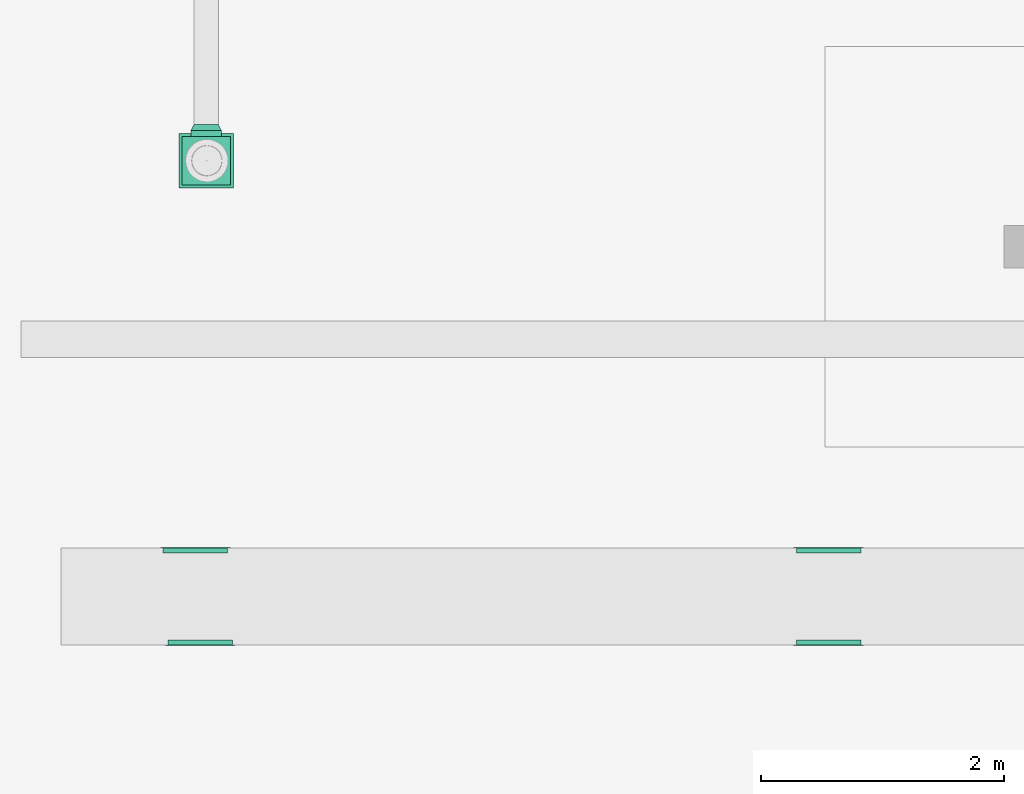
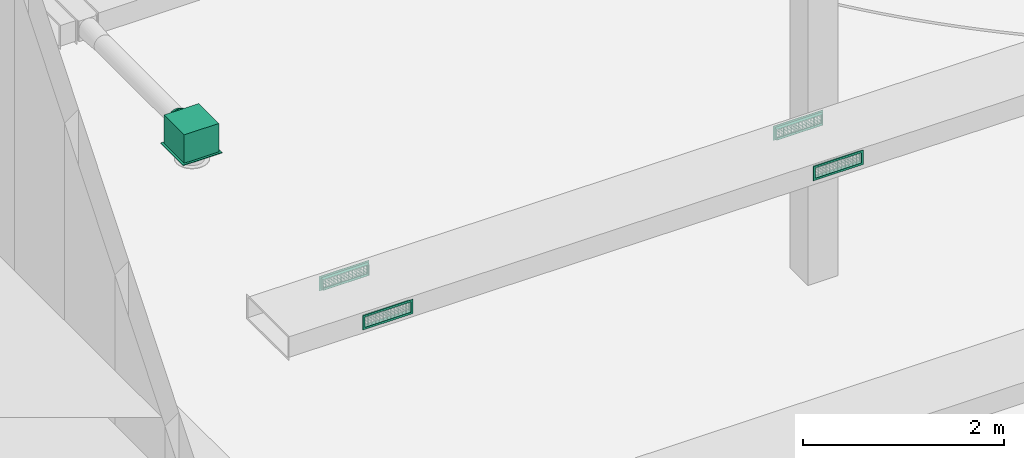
# One storey, part 266 of 302: 5 flow terminals, 1 flow fitting.
"""IFC2X3 building model written with IfcOpenShell, lengths in metres."""

from ifc_helpers import new_model, entity, si_unit, converted_unit, derived_unit, direction, frame, frame_2d, origin, origin_2d_with_axis, place, context, subcontext, project, spatial, polyline, circle_curve, parameter, trimmed, segment, composite_curve, rectangle, circle, outline, extrude, faceted_brep, source, transform, mapped, material, material_list, type_object, type_shapes, element, save


model = new_model("IFC2X3")

# Units and contexts
model_context = context("Model", 3, precision=1e-05, world=origin(), true_north=direction((6.12303176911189e-17, 1.0)))
body_context = subcontext(model_context, "Body", "Model", "MODEL_VIEW")
ifc_project = project(units=[si_unit("LENGTHUNIT", "METRE"), si_unit("AREAUNIT", "SQUARE_METRE"), si_unit("VOLUMEUNIT", "CUBIC_METRE"), converted_unit("PLANEANGLEUNIT", "DEGREE", entity("IfcRatioMeasure", 0.0174532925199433), si_unit("PLANEANGLEUNIT", "RADIAN"), dimensions=[0, 0, 0, 0, 0, 0, 0]), si_unit("MASSUNIT", "GRAM", prefix="KILO"), derived_unit("MASSDENSITYUNIT", [(si_unit("MASSUNIT", "GRAM", prefix="KILO"), 1), (si_unit("LENGTHUNIT", "METRE"), -3)]), derived_unit("MOMENTOFINERTIAUNIT", [(si_unit("LENGTHUNIT", "METRE"), 4)]), si_unit("TIMEUNIT", "SECOND"), si_unit("FREQUENCYUNIT", "HERTZ"), si_unit("THERMODYNAMICTEMPERATUREUNIT", "DEGREE_CELSIUS"), derived_unit("THERMALTRANSMITTANCEUNIT", [(si_unit("MASSUNIT", "GRAM", prefix="KILO"), 1), (si_unit("THERMODYNAMICTEMPERATUREUNIT", "KELVIN"), -1), (si_unit("TIMEUNIT", "SECOND"), -3)]), derived_unit("VOLUMETRICFLOWRATEUNIT", [(si_unit("LENGTHUNIT", "METRE"), 3), (si_unit("TIMEUNIT", "SECOND"), -1)]), si_unit("ELECTRICCURRENTUNIT", "AMPERE"), si_unit("ELECTRICVOLTAGEUNIT", "VOLT"), si_unit("POWERUNIT", "WATT"), si_unit("FORCEUNIT", "NEWTON", prefix="KILO"), si_unit("ILLUMINANCEUNIT", "LUX"), si_unit("LUMINOUSFLUXUNIT", "LUMEN"), si_unit("LUMINOUSINTENSITYUNIT", "CANDELA"), derived_unit("USERDEFINED", [(si_unit("MASSUNIT", "GRAM", prefix="KILO"), -1), (si_unit("LENGTHUNIT", "METRE"), -2), (si_unit("TIMEUNIT", "SECOND"), 3), (si_unit("LUMINOUSFLUXUNIT", "LUMEN"), 1)]), derived_unit("LINEARVELOCITYUNIT", [(si_unit("LENGTHUNIT", "METRE"), 1), (si_unit("TIMEUNIT", "SECOND"), -1)]), si_unit("PRESSUREUNIT", "PASCAL"), derived_unit("USERDEFINED", [(si_unit("LENGTHUNIT", "METRE"), -2), (si_unit("MASSUNIT", "GRAM", prefix="KILO"), 1), (si_unit("TIMEUNIT", "SECOND"), -2)]), derived_unit("LINEARFORCEUNIT", [(si_unit("MASSUNIT", "GRAM", prefix="KILO"), 1), (si_unit("LENGTHUNIT", "METRE"), 1), (si_unit("TIMEUNIT", "SECOND"), -2), (si_unit("LENGTHUNIT", "METRE"), -1)]), derived_unit("PLANARFORCEUNIT", [(si_unit("MASSUNIT", "GRAM", prefix="KILO"), 1), (si_unit("LENGTHUNIT", "METRE"), 1), (si_unit("TIMEUNIT", "SECOND"), -2), (si_unit("LENGTHUNIT", "METRE"), -2)])], contexts=[model_context])

# Site, building, storey
site_placement = place(None, origin())
site = spatial("IfcSite", under=ifc_project, at=site_placement, Name="Default", CompositionType="ELEMENT")
building_placement = place(site_placement, origin())
building = spatial("IfcBuilding", under=site, at=building_placement, CompositionType="ELEMENT")
storey_placement = place(building_placement, frame((0.0, 0.0, -1.3)))
storey = spatial("IfcBuildingStorey", under=building, at=storey_placement, Name="00_EG", CompositionType="ELEMENT", Elevation=-1.3)

# Flow fitting
ifc_material = material(Name="<Unnamed>")
duct_fitting_type = type_object("IfcDuctFittingType", Name="STR_RND_Transition:STR_Transition_RND_GS_EA", PredefinedType="NOTDEFINED", material=ifc_material)
shared_shape_1 = source(origin(), body_context, "Body", "Brep", [
    faceted_brep([(0.0500000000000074, -0.073473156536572, -0.1011271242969), (0.0500000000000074, -0.0386271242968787, -0.118882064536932), (0.0500000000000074, 0.0, -0.12500000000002), (0.0500000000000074, 0.0386271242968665, -0.11888206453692), (0.0500000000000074, 0.073473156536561, -0.101127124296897), (0.0500000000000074, 0.101127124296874, -0.0734731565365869), (0.0500000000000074, 0.1188820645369, -0.038627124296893), (0.0500000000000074, 0.124999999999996, 0.0), (0.0500000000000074, 0.118882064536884, 0.0386271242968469), (0.0500000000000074, 0.101127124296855, 0.073473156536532), (0.0500000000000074, 0.0734731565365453, 0.101127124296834), (0.0500000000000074, 0.0386271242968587, 0.118882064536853), (0.0500000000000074, 0.0, 0.12499999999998), (0.0500000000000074, -0.0386271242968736, 0.118882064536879), (0.0500000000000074, -0.0734731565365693, 0.101127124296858), (0.0500000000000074, -0.101127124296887, 0.0734731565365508), (0.0500000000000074, -0.118882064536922, 0.0386271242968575), (0.0500000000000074, -0.125000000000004, 0.0), (0.0500000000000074, -0.118882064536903, -0.0386271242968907), (0.0500000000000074, -0.101127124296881, -0.0734731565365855), (0.0, 0.0309016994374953, -0.0951056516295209), (0.0, 0.0, -0.100000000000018), (0.0, -0.0309016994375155, -0.0951056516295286), (0.0, -0.0587785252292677, -0.0809016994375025), (0.0, -0.0809016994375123, -0.0587785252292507), (0.0, -0.0951056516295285, -0.0309016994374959), (0.0, -0.100000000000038, 0.0), (0.0, -0.0951056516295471, 0.0309016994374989), (0.0, -0.0809016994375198, 0.0587785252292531), (0.0, -0.058778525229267, 0.0809016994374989), (0.0, -0.0309016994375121, 0.0951056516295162), (0.0, 0.0, 0.0999999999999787), (0.0, 0.0309016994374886, 0.0951056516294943), (0.0, 0.0587785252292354, 0.0809016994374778), (0.0, 0.0809016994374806, 0.0587785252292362), (0.0, 0.0951056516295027, 0.0309016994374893), (0.0, 0.0999999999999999, 0.0), (0.0, 0.0951056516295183, -0.0309016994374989), (0.0, 0.0809016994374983, -0.0587785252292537), (0.0, 0.0587785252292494, -0.0809016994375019)], [[[0, 1, 2, 3, 4, 5, 6, 7, 8, 9, 10, 11, 12, 13, 14, 15, 16, 17, 18, 19]], [[20, 21, 22, 23, 24, 25, 26, 27, 28, 29, 30, 31, 32, 33, 34, 35, 36, 37, 38, 39]], [[35, 34, 9, 8]], [[36, 35, 8, 7]], [[34, 33, 10, 9]], [[10, 33, 32, 11]], [[11, 32, 31, 12]], [[30, 29, 14, 13]], [[31, 30, 13, 12]], [[29, 28, 15, 14]], [[15, 28, 27, 16]], [[16, 27, 26, 17]], [[25, 24, 19, 18]], [[26, 25, 18, 17]], [[24, 23, 0, 19]], [[0, 23, 22, 1]], [[1, 22, 21, 2]], [[20, 39, 4, 3]], [[21, 20, 3, 2]], [[39, 38, 5, 4]], [[5, 38, 37, 6]], [[6, 37, 36, 7]]]),
])
type_shapes(duct_fitting_type, [shared_shape_1])
flow_fitting_placement = place(storey_placement, frame((-263.476224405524, 36.4181484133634, 4.90999999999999), z_axis=(0.0, 0.0, 1.0), x_axis=(0.0, -1.0, 0.0)))
element("IfcFlowFitting", 1, at=flow_fitting_placement, inside=storey, type_object=duct_fitting_type, material=ifc_material, Name="STR_RND_Transition:STR_Transition_RND_GS_EA", ObjectType="STR_RND_Transition:STR_Transition_RND_GS_EA", context=body_context, shape_type="MappedRepresentation", body=[
    mapped(shared_shape_1, transform((0.0, 0.0, 0.0), scale=1.0)),
])

# Flow terminals
ifc_material_list_1 = material_list([ifc_material, ifc_material, ifc_material])
ifc_material_list_2 = material_list([ifc_material, ifc_material, ifc_material])
air_terminal_type_1 = type_object("IfcAirTerminalType", Name="Drallauslass Zuluft seitlich:600 quadratisch", PredefinedType="NOTDEFINED", material=ifc_material_list_2)
shared_shape_2 = source(origin(), body_context, "Body", "SweptSolid", [
    extrude(rectangle(XDim=0.450000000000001, YDim=0.449999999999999, at=origin_2d_with_axis()), frame((0.0, 0.0, 2.692), z_axis=(0.0, 0.0, 1.0), x_axis=(0.0, 1.0, 0.0)), (0.0, 0.0, 1.0), 0.00800000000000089),
    extrude(circle(Radius=0.125, at=frame_2d((1.22275294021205e-18, -5.41433564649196e-16), x_axis=(1.0, 0.0))), frame((-0.25, 0.0, 2.89500000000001), z_axis=(1.0, 0.0, 0.0), x_axis=(0.0, -1.0, 0.0)), (0.0, 0.0, 1.0), 0.0499999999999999),
    extrude(rectangle(XDim=0.4, YDim=0.399999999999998, at=origin_2d_with_axis()), frame((0.0, 0.0, 2.7), z_axis=(0.0, 0.0, 1.0), x_axis=(0.0, 1.0, 0.0)), (0.0, 0.0, 1.0), 0.345000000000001),
])
type_shapes(air_terminal_type_1, [shared_shape_2])
flow_terminal_placement = place(storey_placement, frame((-263.476224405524, 36.1181484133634, 2.01499999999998), z_axis=(0.0, 0.0, 1.0), x_axis=(0.0, -1.0, 0.0)))
element("IfcFlowTerminal", 2, at=flow_terminal_placement, inside=storey, type_object=air_terminal_type_1, material=ifc_material_list_1, Name="Drallauslass Zuluft seitlich:600 quadratisch", ObjectType="Drallauslass Zuluft seitlich:600 quadratisch", context=body_context, shape_type="MappedRepresentation", body=[
    mapped(shared_shape_2, transform((0.0, 0.0, 0.0), scale=1.0)),
])
ifc_material_list_3 = material_list([ifc_material, ifc_material, ifc_material, ifc_material, ifc_material, ifc_material, ifc_material, ifc_material, ifc_material, ifc_material, ifc_material, ifc_material, ifc_material, ifc_material, ifc_material, ifc_material, ifc_material, ifc_material, ifc_material])
air_terminal_type_2 = type_object("IfcAirTerminalType", Name="Kanallüftungsgitter Abluft:525 x 125", PredefinedType="NOTDEFINED", material=ifc_material_list_3)
shared_shape_3 = source(origin(), body_context, "Body", "SweptSolid", [
    extrude(outline(composite_curve([segment(polyline([(-0.00289554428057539, -0.00148147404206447), (0.00423714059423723, -0.00148147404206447)]), True, "CONTINUOUS"), segment(polyline([(0.00423714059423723, -0.00148147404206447), (-0.00134159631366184, 0.00296294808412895)]), True, "CONTINUOUS"), segment(trimmed(circle_curve(frame_2d((-0.00255940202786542, 0.000894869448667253), x_axis=(0.330047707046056, 0.943964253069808)), 0.0024), [parameter(348.779604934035)], [parameter(191.220395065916)], True, "PARAMETER"), True, "CONTINUOUS")], self_intersect=False)), frame((-0.0293780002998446, -0.2625, 0.0446428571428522), z_axis=(0.0, 1.0, 0.0), x_axis=(-0.943964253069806, 0.0, 0.330047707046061)), (0.0, 0.0, 1.0), 0.525),
    extrude(outline(composite_curve([segment(polyline([(-0.00289554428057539, -0.00148147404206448), (0.00423714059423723, -0.00148147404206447)]), True, "CONTINUOUS"), segment(polyline([(0.00423714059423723, -0.00148147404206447), (-0.00134159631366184, 0.00296294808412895)]), True, "CONTINUOUS"), segment(trimmed(circle_curve(frame_2d((-0.00255940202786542, 0.000894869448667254), x_axis=(0.330047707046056, 0.943964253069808)), 0.0024), [parameter(348.779604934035)], [parameter(191.220395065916)], True, "PARAMETER"), True, "CONTINUOUS")], self_intersect=False)), frame((-0.0293780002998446, -0.2625, 0.0267857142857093), z_axis=(0.0, 1.0, 0.0), x_axis=(-0.943964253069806, 0.0, 0.330047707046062)), (0.0, 0.0, 1.0), 0.525),
    extrude(outline(composite_curve([segment(polyline([(-0.00289554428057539, -0.00148147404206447), (0.00423714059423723, -0.00148147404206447)]), True, "CONTINUOUS"), segment(polyline([(0.00423714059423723, -0.00148147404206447), (-0.00134159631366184, 0.00296294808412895)]), True, "CONTINUOUS"), segment(trimmed(circle_curve(frame_2d((-0.00255940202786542, 0.000894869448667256), x_axis=(0.330047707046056, 0.943964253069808)), 0.0024), [parameter(348.779604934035)], [parameter(191.220395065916)], True, "PARAMETER"), True, "CONTINUOUS")], self_intersect=False)), frame((-0.0293780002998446, -0.2625, 0.00892857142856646), z_axis=(0.0, 1.0, 0.0), x_axis=(-0.943964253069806, 0.0, 0.330047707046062)), (0.0, 0.0, 1.0), 0.525),
    extrude(outline(composite_curve([segment(polyline([(-0.00289554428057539, -0.00148147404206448), (0.00423714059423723, -0.00148147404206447)]), True, "CONTINUOUS"), segment(polyline([(0.00423714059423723, -0.00148147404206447), (-0.00134159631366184, 0.00296294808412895)]), True, "CONTINUOUS"), segment(trimmed(circle_curve(frame_2d((-0.00255940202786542, 0.000894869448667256), x_axis=(0.330047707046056, 0.943964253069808)), 0.0024), [parameter(348.779604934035)], [parameter(191.220395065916)], True, "PARAMETER"), True, "CONTINUOUS")], self_intersect=False)), frame((-0.0293780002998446, -0.2625, -0.00892857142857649), z_axis=(0.0, 1.0, 0.0), x_axis=(-0.943964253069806, 0.0, 0.330047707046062)), (0.0, 0.0, 1.0), 0.525),
    extrude(outline(composite_curve([segment(polyline([(-0.00289554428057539, -0.00148147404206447), (0.00423714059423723, -0.00148147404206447)]), True, "CONTINUOUS"), segment(polyline([(0.00423714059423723, -0.00148147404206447), (-0.00134159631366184, 0.00296294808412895)]), True, "CONTINUOUS"), segment(trimmed(circle_curve(frame_2d((-0.00255940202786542, 0.000894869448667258), x_axis=(0.330047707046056, 0.943964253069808)), 0.0024), [parameter(348.779604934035)], [parameter(191.220395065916)], True, "PARAMETER"), True, "CONTINUOUS")], self_intersect=False)), frame((-0.0293780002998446, -0.2625, -0.0267857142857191), z_axis=(0.0, 1.0, 0.0), x_axis=(-0.943964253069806, 0.0, 0.330047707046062)), (0.0, 0.0, 1.0), 0.525),
    extrude(outline(composite_curve([segment(polyline([(-0.00289554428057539, -0.00148147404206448), (0.00423714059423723, -0.00148147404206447)]), True, "CONTINUOUS"), segment(polyline([(0.00423714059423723, -0.00148147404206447), (-0.00134159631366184, 0.00296294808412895)]), True, "CONTINUOUS"), segment(trimmed(circle_curve(frame_2d((-0.00255940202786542, 0.000894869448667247), x_axis=(0.330047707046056, 0.943964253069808)), 0.0024), [parameter(348.779604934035)], [parameter(191.220395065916)], True, "PARAMETER"), True, "CONTINUOUS")], self_intersect=False)), frame((-0.0293780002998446, -0.2625, -0.0446428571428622), z_axis=(0.0, 1.0, 0.0), x_axis=(-0.943964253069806, 0.0, 0.330047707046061)), (0.0, 0.0, 1.0), 0.525),
    extrude(outline(composite_curve([segment(trimmed(circle_curve(frame_2d((0.0, -0.00271133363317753), x_axis=(1.0, 0.0)), 0.0024), [parameter(168.779604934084)], [parameter(11.2203950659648)], True, "PARAMETER"), True, "CONTINUOUS"), segment(polyline([(0.00235412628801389, -0.00224433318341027), (0.0, 0.00448866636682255)]), True, "CONTINUOUS"), segment(polyline([(0.0, 0.00448866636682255), (-0.00235412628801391, -0.00224433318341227)]), True, "CONTINUOUS")], self_intersect=False)), frame((-0.0160446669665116, 0.218750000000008, -0.0625), z_axis=(0.0, 0.0, 1.0), x_axis=(0.0, 1.0, 0.0)), (0.0, 0.0, 1.0), 0.125),
    extrude(outline(composite_curve([segment(trimmed(circle_curve(frame_2d((0.0, -0.00271133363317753), x_axis=(1.0, 0.0)), 0.0024), [parameter(168.779604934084)], [parameter(11.2203950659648)], True, "PARAMETER"), True, "CONTINUOUS"), segment(polyline([(0.00235412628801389, -0.00224433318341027), (0.0, 0.00448866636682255)]), True, "CONTINUOUS"), segment(polyline([(0.0, 0.00448866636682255), (-0.00235412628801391, -0.00224433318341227)]), True, "CONTINUOUS")], self_intersect=False)), frame((-0.0160446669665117, 0.175000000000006, -0.0625), z_axis=(0.0, 0.0, 1.0), x_axis=(0.0, 1.0, 0.0)), (0.0, 0.0, 1.0), 0.125),
    extrude(outline(composite_curve([segment(trimmed(circle_curve(frame_2d((0.0, -0.00271133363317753), x_axis=(1.0, 0.0)), 0.0024), [parameter(168.779604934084)], [parameter(11.2203950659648)], True, "PARAMETER"), True, "CONTINUOUS"), segment(polyline([(0.00235412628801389, -0.00224433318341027), (0.0, 0.00448866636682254)]), True, "CONTINUOUS"), segment(polyline([(0.0, 0.00448866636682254), (-0.00235412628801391, -0.00224433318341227)]), True, "CONTINUOUS")], self_intersect=False)), frame((-0.0160446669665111, 0.131250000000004, -0.0625), z_axis=(0.0, 0.0, 1.0), x_axis=(0.0, 1.0, 0.0)), (0.0, 0.0, 1.0), 0.125),
    extrude(outline(composite_curve([segment(trimmed(circle_curve(frame_2d((0.0, -0.00271133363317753), x_axis=(1.0, 0.0)), 0.0024), [parameter(168.779604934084)], [parameter(11.2203950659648)], True, "PARAMETER"), True, "CONTINUOUS"), segment(polyline([(0.00235412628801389, -0.00224433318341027), (0.0, 0.00448866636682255)]), True, "CONTINUOUS"), segment(polyline([(0.0, 0.00448866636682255), (-0.0023541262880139, -0.00224433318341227)]), True, "CONTINUOUS")], self_intersect=False)), frame((-0.0160446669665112, 0.0875000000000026, -0.0624999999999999), z_axis=(0.0, 0.0, 1.0), x_axis=(0.0, 1.0, 0.0)), (0.0, 0.0, 1.0), 0.125),
    extrude(outline(composite_curve([segment(trimmed(circle_curve(frame_2d((0.0, -0.00271133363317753), x_axis=(1.0, 0.0)), 0.0024), [parameter(168.779604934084)], [parameter(11.2203950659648)], True, "PARAMETER"), True, "CONTINUOUS"), segment(polyline([(0.00235412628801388, -0.00224433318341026), (0.0, 0.00448866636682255)]), True, "CONTINUOUS"), segment(polyline([(0.0, 0.00448866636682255), (-0.00235412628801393, -0.00224433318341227)]), True, "CONTINUOUS")], self_intersect=False)), frame((-0.0160446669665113, 0.0437500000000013, -0.0624999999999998), z_axis=(0.0, 0.0, 1.0), x_axis=(0.0, 1.0, 0.0)), (0.0, 0.0, 1.0), 0.125),
    extrude(outline(composite_curve([segment(trimmed(circle_curve(frame_2d((0.0, -0.00271133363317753), x_axis=(1.0, 0.0)), 0.0024), [parameter(168.779604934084)], [parameter(11.2203950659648)], True, "PARAMETER"), True, "CONTINUOUS"), segment(polyline([(0.00235412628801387, -0.00224433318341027), (0.0, 0.00448866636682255)]), True, "CONTINUOUS"), segment(polyline([(0.0, 0.00448866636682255), (-0.00235412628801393, -0.00224433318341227)]), True, "CONTINUOUS")], self_intersect=False)), frame((-0.0160446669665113, 0.0, -0.0624999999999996), z_axis=(0.0, 0.0, 1.0), x_axis=(0.0, 1.0, 0.0)), (0.0, 0.0, 1.0), 0.125),
    extrude(outline(composite_curve([segment(trimmed(circle_curve(frame_2d((0.0, -0.00271133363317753), x_axis=(1.0, 0.0)), 0.0024), [parameter(168.779604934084)], [parameter(11.2203950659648)], True, "PARAMETER"), True, "CONTINUOUS"), segment(polyline([(0.00235412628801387, -0.00224433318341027), (0.0, 0.00448866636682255)]), True, "CONTINUOUS"), segment(polyline([(0.0, 0.00448866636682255), (-0.00235412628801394, -0.00224433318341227)]), True, "CONTINUOUS")], self_intersect=False)), frame((-0.0160446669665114, -0.0437499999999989, -0.0624999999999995), z_axis=(0.0, 0.0, 1.0), x_axis=(0.0, 1.0, 0.0)), (0.0, 0.0, 1.0), 0.125),
    extrude(outline(composite_curve([segment(trimmed(circle_curve(frame_2d((0.0, -0.00271133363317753), x_axis=(1.0, 0.0)), 0.0024), [parameter(168.779604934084)], [parameter(11.2203950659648)], True, "PARAMETER"), True, "CONTINUOUS"), segment(polyline([(0.00235412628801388, -0.00224433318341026), (0.0, 0.00448866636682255)]), True, "CONTINUOUS"), segment(polyline([(0.0, 0.00448866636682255), (-0.00235412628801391, -0.00224433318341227)]), True, "CONTINUOUS")], self_intersect=False)), frame((-0.0160446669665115, -0.0874999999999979, -0.0624999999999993), z_axis=(0.0, 0.0, 1.0), x_axis=(0.0, 1.0, 0.0)), (0.0, 0.0, 1.0), 0.125),
    extrude(outline(composite_curve([segment(trimmed(circle_curve(frame_2d((0.0, -0.00271133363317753), x_axis=(1.0, 0.0)), 0.0024), [parameter(168.779604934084)], [parameter(11.2203950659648)], True, "PARAMETER"), True, "CONTINUOUS"), segment(polyline([(0.00235412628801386, -0.00224433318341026), (0.0, 0.00448866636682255)]), True, "CONTINUOUS"), segment(polyline([(0.0, 0.00448866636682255), (-0.00235412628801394, -0.00224433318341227)]), True, "CONTINUOUS")], self_intersect=False)), frame((-0.0160446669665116, -0.131249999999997, -0.0624999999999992), z_axis=(0.0, 0.0, 1.0), x_axis=(0.0, 1.0, 0.0)), (0.0, 0.0, 1.0), 0.125),
    extrude(outline(composite_curve([segment(trimmed(circle_curve(frame_2d((0.0, -0.00271133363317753), x_axis=(1.0, 0.0)), 0.0024), [parameter(168.779604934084)], [parameter(11.2203950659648)], True, "PARAMETER"), True, "CONTINUOUS"), segment(polyline([(0.00235412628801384, -0.00224433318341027), (0.0, 0.00448866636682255)]), True, "CONTINUOUS"), segment(polyline([(0.0, 0.00448866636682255), (-0.00235412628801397, -0.00224433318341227)]), True, "CONTINUOUS")], self_intersect=False)), frame((-0.0160446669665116, -0.174999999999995, -0.062499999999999), z_axis=(0.0, 0.0, 1.0), x_axis=(0.0, 1.0, 0.0)), (0.0, 0.0, 1.0), 0.125),
    extrude(outline(composite_curve([segment(trimmed(circle_curve(frame_2d((0.0, -0.00271133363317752), x_axis=(1.0, 0.0)), 0.0024), [parameter(168.779604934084)], [parameter(11.2203950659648)], True, "PARAMETER"), True, "CONTINUOUS"), segment(polyline([(0.00235412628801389, -0.00224433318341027), (0.0, 0.00448866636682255)]), True, "CONTINUOUS"), segment(polyline([(0.0, 0.00448866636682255), (-0.00235412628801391, -0.00224433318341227)]), True, "CONTINUOUS")], self_intersect=False)), frame((-0.0160446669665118, -0.218749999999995, -0.0624999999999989), z_axis=(0.0, 0.0, 1.0), x_axis=(0.0, 1.0, 0.0)), (0.0, 0.0, 1.0), 0.125),
    extrude(outline(polyline([(-0.0665, -0.2665), (0.0665, -0.2665), (0.0665, 0.2665), (-0.0665, 0.2665), (-0.0665, -0.2665)]), holes=[polyline([(-0.0625000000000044, -0.2625), (-0.0625000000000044, 0.262499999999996), (0.062500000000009, 0.262499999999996), (0.062500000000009, -0.2625), (-0.0625000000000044, -0.2625)])]), frame((-0.04, 0.0, 0.0), z_axis=(1.0, 0.0, 0.0), x_axis=(0.0, 0.0, -1.0)), (0.0, 0.0, 1.0), 0.04),
    extrude(outline(polyline([(-0.0875, -0.2875), (0.0875, -0.2875), (0.0875, 0.2875), (-0.0875, 0.2875), (-0.0875, -0.2875)]), holes=[polyline([(-0.0625, -0.262499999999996), (-0.0625, 0.262500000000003), (0.0625000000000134, 0.262500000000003), (0.0625000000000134, -0.262499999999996), (-0.0625, -0.262499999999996)])]), frame((0.0, 0.0, 0.0), z_axis=(1.0, 0.0, 0.0), x_axis=(0.0, 0.0, -1.0)), (0.0, 0.0, 1.0), 0.005),
])
type_shapes(air_terminal_type_2, [shared_shape_3])
for number, where, z_axis, x_axis, name in (
    (3, (-258.343120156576, 32.9240784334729, 5.125), (0.0, 0.0, -1.0), (0.0, 1.0, 0.0), "Kanallüftungsgitter Abluft:525 x 125"),
    (4, (-258.343120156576, 32.1240784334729, 5.125), (0.0, 0.0, 1.0), (0.0, -1.0, 0.0), "Kanallüftungsgitter Abluft:525 x 125"),
    (5, (-263.524509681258, 32.1240784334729, 5.125), (0.0, 0.0, 1.0), (0.0, -1.0, 0.0), "Kanallüftungsgitter Abluft:525 x 125"),
    (6, (-263.5643957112, 32.9240784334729, 5.125), (0.0, 0.0, -1.0), (0.0, 1.0, 0.0), "Kanallüftungsgitter Abluft:525 x 125"),
):
    element("IfcFlowTerminal", number, at=place(storey_placement, frame(where, z_axis=z_axis, x_axis=x_axis)), inside=storey, type_object=air_terminal_type_2, material=ifc_material, Name=name, ObjectType="Kanallüftungsgitter Abluft:525 x 125", context=body_context, shape_type="MappedRepresentation", body=[
        mapped(shared_shape_3, transform((0.0, 0.0, 0.0), scale=1.0)),
    ])

save(model, "model.ifc")
